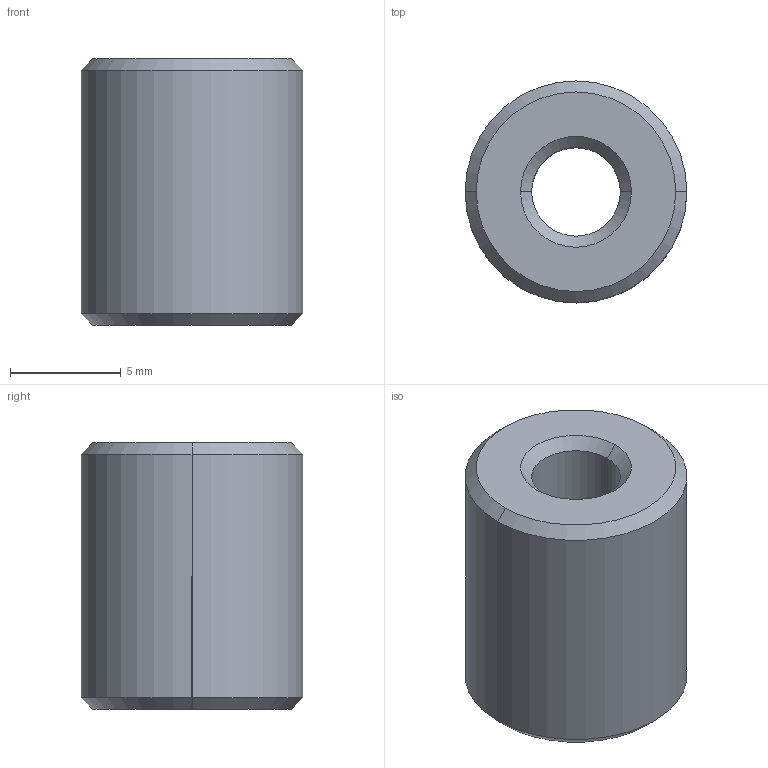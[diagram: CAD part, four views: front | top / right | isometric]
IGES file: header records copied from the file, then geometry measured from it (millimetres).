
Start section: 3D InterOp IGES (v. 2020 1.0.1), Spatial Corp. Copyright (c) 1999-2017.
Global section: file name: 951-1-g.igs; native system: Spatial Corp.; preprocessor: 3D InterOp ACIS/IGES; author: TraceParts; organization: TraceParts S.A.; date: 20231204.104658; units: millimetre
Bounding box: 10 x 10 x 12 mm (x, y, z)
Surface area: 634 mm2 (no closed solid volume)
Topology: 0 solids, 0 shells, 14 faces, 56 edges, 56 vertices
Faces by surface type: revolution 12, extrusion 2
